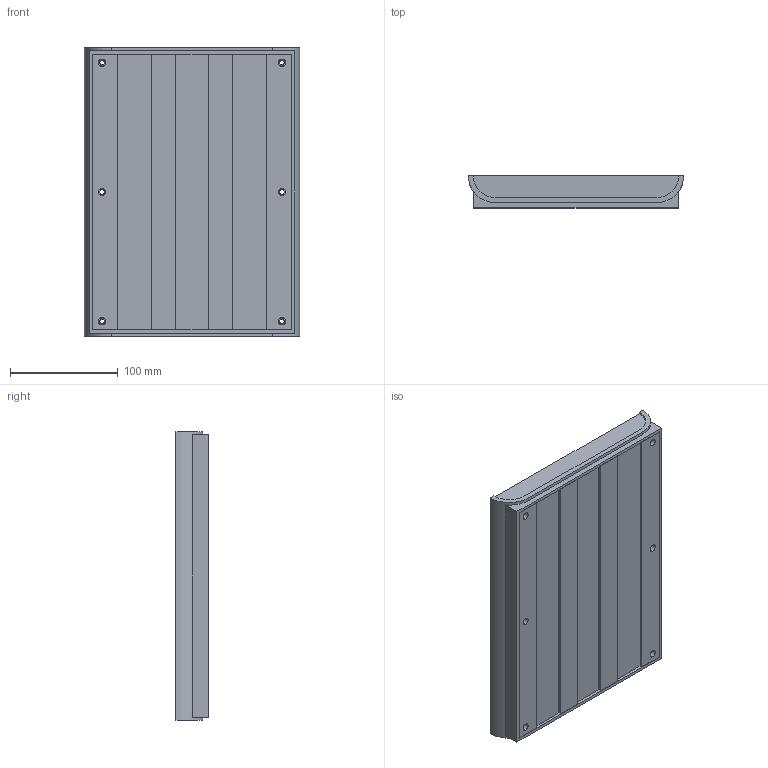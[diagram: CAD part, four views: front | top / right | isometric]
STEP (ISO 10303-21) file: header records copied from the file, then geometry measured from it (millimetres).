
FILE_DESCRIPTION (( 'STEP AP214' ), '1' );
FILE_NAME ('Cos PP105G.STEP', '2017-08-24T07:31:50', ( 'aaa' ), ( '' ), 'SwSTEP 2.0', 'SolidWorks 2013', '' );
FILE_SCHEMA (( 'AUTOMOTIVE_DESIGN' ));
Length unit declared in the file: millimetre
Products named in the file (1): Cos PP105G
Bounding box: 200 x 30 x 268 mm (x, y, z)
Volume: 267211.3 mm3; surface area: 179170.7 mm2
Topology: 1 solids, 1 shells, 258 faces, 594 edges, 396 vertices
Faces by surface type: plane 122, cylinder 80, cone 56
Entity records: 7490 total; most frequent: DIRECTION 1392, CARTESIAN_POINT 1267, ORIENTED_EDGE 1188, EDGE_CURVE 594, AXIS2_PLACEMENT_3D 543, VERTEX_POINT 396, EDGE_LOOP 328, LINE 306
